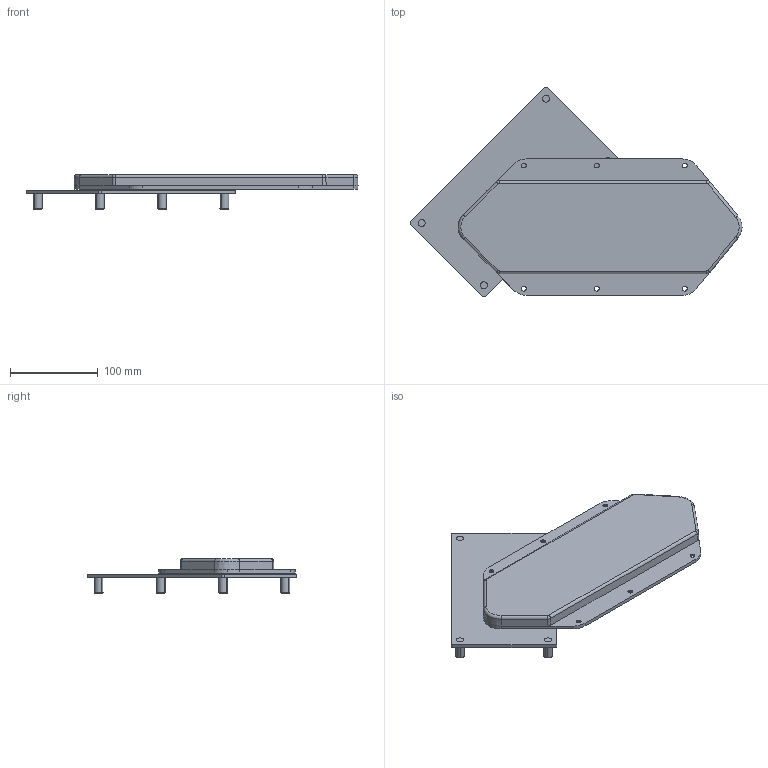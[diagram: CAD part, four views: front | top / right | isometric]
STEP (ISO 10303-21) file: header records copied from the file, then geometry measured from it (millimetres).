
FILE_DESCRIPTION (( 'STEP AP214' ), '1' );
FILE_NAME ('CM4070-R_3D_Dummy_01.STEP', '2022-01-24T15:05:59', ( '' ), ( '' ), 'SwSTEP 2.0', 'SolidWorks 2021', '' );
FILE_SCHEMA (( 'AUTOMOTIVE_DESIGN' ));
Length unit declared in the file: millimetre
Products named in the file (4): DUG; W036016_Schwenkplatte_untereinbau_Dummy.STEP; CM4070-R_3D_Dummy_01; CM4070-R_3D_Dummy.STEP
Assembly tree (3 placements, depth 3):
  CM4070-R_3D_Dummy_01
    CM4070-R_3D_Dummy.STEP
      W036016_Schwenkplatte_untereinbau_Dummy.STEP
    DUG
Bounding box: 377.52 x 238.74 x 39.5 mm (x, y, z)
Volume: 653269.5 mm3; surface area: 152442.3 mm2
Topology: 6 solids, 6 shells, 121 faces, 277 edges, 172 vertices
Faces by surface type: cylinder 57, plane 35, cone 23, bspline 4, torus 2
Entity records: 4829 total; most frequent: CARTESIAN_POINT 1081, DIRECTION 644, ORIENTED_EDGE 554, EDGE_CURVE 277, AXIS2_PLACEMENT_3D 257, VERTEX_POINT 172, EDGE_LOOP 145, CIRCLE 133
